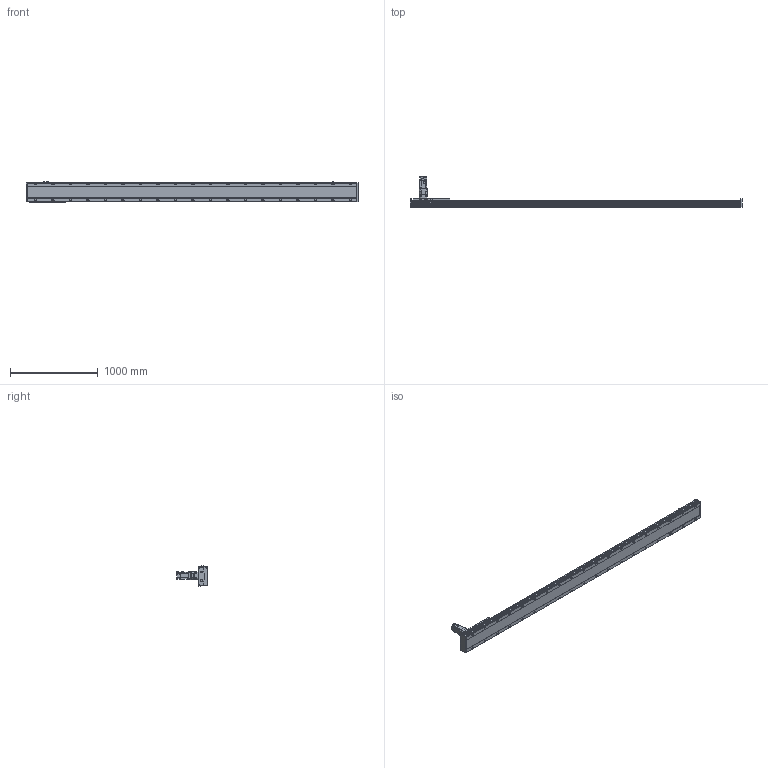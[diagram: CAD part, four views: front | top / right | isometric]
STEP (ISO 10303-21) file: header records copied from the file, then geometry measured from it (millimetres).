
FILE_DESCRIPTION(/* description */ ('STEP AP214'),/* implementation_level */ '2;1');
FILE_NAME(/* name */ 'SHS22A-L13-S3300-BC-T75-C1-N(0)',/* time_stamp */ '2022-06-15T02:28:03+02:00',/* author */ ('License CC BY-ND 4.0'),/* organization */ ('CADENAS'),/* preprocessor_version */ 'ST-DEVELOPER v18.102',/* originating_system */ 'PARTsolutions',/* authorisation */ ' ');
FILE_SCHEMA (('AUTOMOTIVE_DESIGN {1 0 10303 214 3 1 1}'));
Length unit declared in the file: millimetre
Products named in the file (7): SHS22A-L13-S3300-BC-T75-C1-N(0); PSC140-sensor; SHS22A-S3300_body2; T75-p1; SHS22A-S3300_body3; SHS22A-S3300_slider; SHS22A-L13-S3300-BC-T75-C1(0)_body
Assembly tree (13 placements, depth 2):
  SHS22A-L13-S3300-BC-T75-C1-N(0)
    PSC140-sensor  x3
    SHS22A-S3300_body2  x6
    T75-p1
    SHS22A-S3300_body3
    SHS22A-S3300_slider
    SHS22A-L13-S3300-BC-T75-C1(0)_body
Bounding box: 3794 x 350.8 x 238.4 mm (x, y, z)
Volume: 41101565.2 mm3; surface area: 4222440.2 mm2
Topology: 13 solids, 13 shells, 1929 faces, 4947 edges, 3238 vertices
Faces by surface type: plane 1356, cylinder 461, cone 103, torus 9
Full cylindrical faces by diameter (mm): 2.8 x3, 4.2 x2, 4.6 x3, 4.917 x4, 5 x4, 5.6 x24, 6 x31, 6.6 x24, 6.647 x8, 6.8 x9, 7.75 x6, 8 x3, 8.376 x38, 8.5 x38, 10 x4, 11 x4, 12 x24, 14 x38, 22 x1, 24.1 x1, 28 x1, 28.2 x1, 28.8 x1, 48.542 x1, 68 x1, 70 x1, 78 x1, 80 x2
Entity records: 32530 total; most frequent: CARTESIAN_POINT 5867, DIRECTION 5513, ORIENTED_EDGE 4944, EDGE_CURVE 2472, AXIS2_PLACEMENT_3D 1966, VERTEX_POINT 1790, FACE_BOUND 1734, EDGE_LOOP 1733
